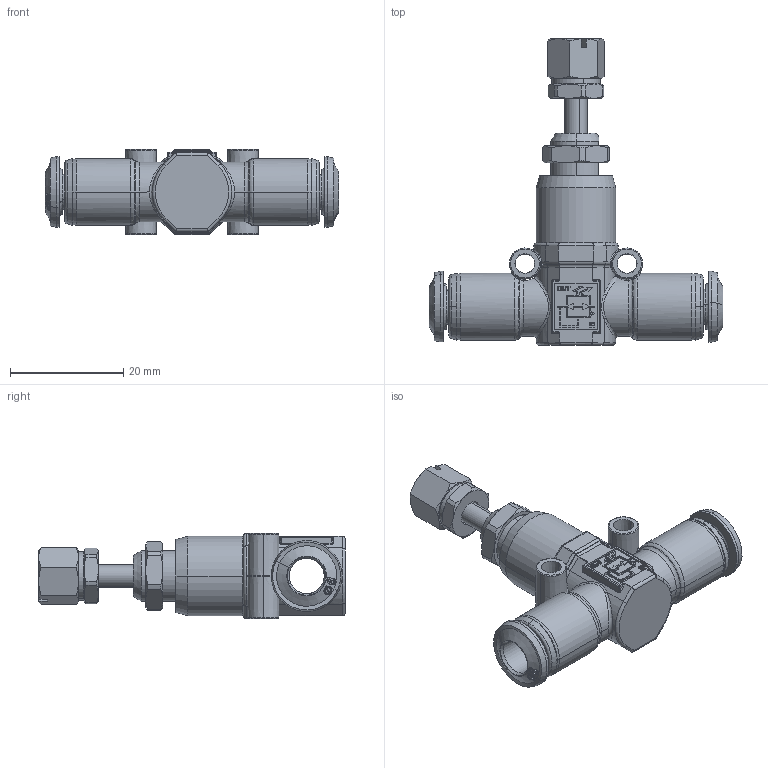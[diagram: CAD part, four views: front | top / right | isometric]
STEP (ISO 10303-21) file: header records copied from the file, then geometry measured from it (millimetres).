
FILE_DESCRIPTION (( 'STEP AP214' ), '1' );
FILE_NAME ('5597000002A.STEP', '2015-07-08T06:13:44', ( '' ), ( '' ), 'SwSTEP 2.0', 'SolidWorks 2015', '' );
FILE_SCHEMA (( 'AUTOMOTIVE_DESIGN' ));
Length unit declared in the file: millimetre
Products named in the file (1): 5597000002A
Bounding box: 51.8 x 54.05 x 15 mm (x, y, z)
Surface area: 5669.9 mm2 (no closed solid volume)
Topology: 0 solids, 18 shells, 606 faces, 1650 edges, 1042 vertices
Faces by surface type: plane 208, bspline 139, cone 117, cylinder 101, torus 38, sphere 3
Entity records: 33506 total; most frequent: CARTESIAN_POINT 13010, ORIENTED_EDGE 2964, DIRECTION 2509, EDGE_CURVE 1642, VERTEX_POINT 1042, AXIS2_PLACEMENT_3D 904, VECTOR 701, LINE 701
